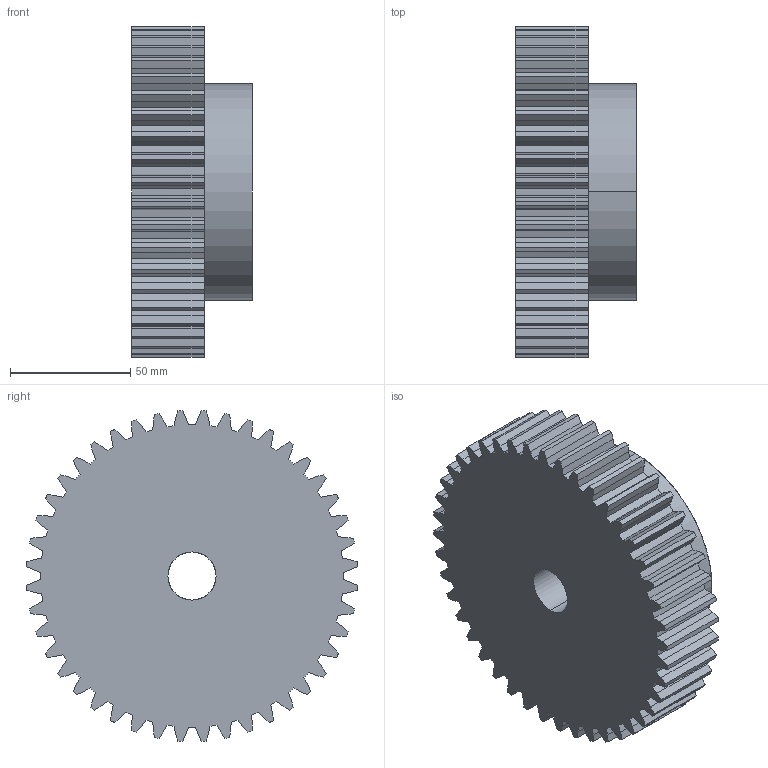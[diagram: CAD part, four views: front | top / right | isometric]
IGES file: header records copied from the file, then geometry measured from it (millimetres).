
Start section: SolidWorks IGES file using analytic representation for surfaces
Global section: file name: C:\Users\Honza\Desktop\Matis (Hotove)\Èelní ozubená kola\PM\MODUL 3\PM 30044.IGS; native system: SolidWorks 2010; preprocessor: SolidWorks 2010; author: Honza; date: 130925.160613; units: millimetre
Bounding box: 50 x 137.78 x 137.78 mm (x, y, z)
Surface area: 58754.7 mm2 (no closed solid volume)
Topology: 0 solids, 0 shells, 271 faces, 1812 edges, 1812 vertices
Faces by surface type: bspline 179, revolution 92
